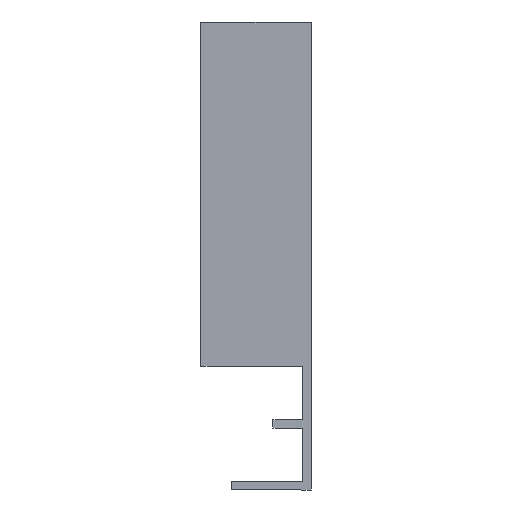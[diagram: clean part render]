
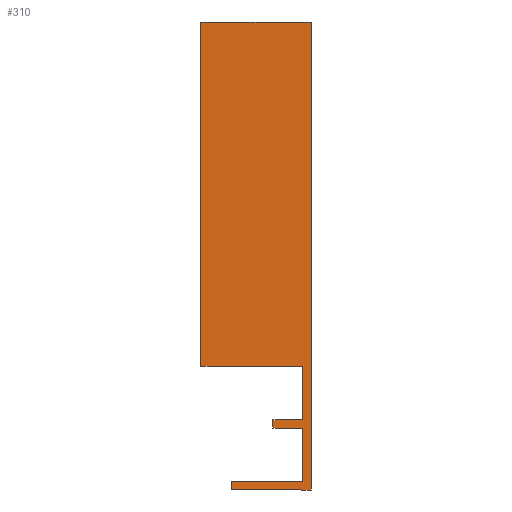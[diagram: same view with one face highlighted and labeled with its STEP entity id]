
A CAD part, left-side view. The second image highlights one B-rep face of the part: STEP entity #310.
In plain terms, the highlighted planar face has unit normal (-1, 0, 0).
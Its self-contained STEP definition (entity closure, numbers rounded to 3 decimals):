
#5 = VECTOR ( 'NONE', #530, 1000. ) ;
#6 = LINE ( 'NONE', #531, #5 ) ;
#7 = VECTOR ( 'NONE', #536, 1000. ) ;
#8 = LINE ( 'NONE', #535, #7 ) ;
#28 = VECTOR ( 'NONE', #510, 1000. ) ;
#31 = LINE ( 'NONE', #507, #28 ) ;
#39 = VECTOR ( 'NONE', #497, 1000. ) ;
#40 = LINE ( 'NONE', #496, #39 ) ;
#45 = VECTOR ( 'NONE', #491, 1000. ) ;
#49 = LINE ( 'NONE', #488, #45 ) ;
#52 = LINE ( 'NONE', #481, #53 ) ;
#53 = VECTOR ( 'NONE', #482, 1000. ) ;
#54 = LINE ( 'NONE', #483, #120 ) ;
#63 = ORIENTED_EDGE ( 'NONE', *, *, #237, .T. ) ;
#64 = ORIENTED_EDGE ( 'NONE', *, *, #243, .T. ) ;
#65 = ORIENTED_EDGE ( 'NONE', *, *, #232, .T. ) ;
#66 = ORIENTED_EDGE ( 'NONE', *, *, #251, .T. ) ;
#67 = ORIENTED_EDGE ( 'NONE', *, *, #301, .T. ) ;
#68 = ORIENTED_EDGE ( 'NONE', *, *, #284, .T. ) ;
#120 = VECTOR ( 'NONE', #485, 1000. ) ;
#127 = ORIENTED_EDGE ( 'NONE', *, *, #269, .T. ) ;
#128 = ORIENTED_EDGE ( 'NONE', *, *, #287, .T. ) ;
#129 = ORIENTED_EDGE ( 'NONE', *, *, #282, .T. ) ;
#140 = EDGE_LOOP ( 'NONE', ( #157, #156, #155, #127, #128, #129, #63, #64, #65, #66, #67, #68 ) ) ;
#155 = ORIENTED_EDGE ( 'NONE', *, *, #283, .T. ) ;
#156 = ORIENTED_EDGE ( 'NONE', *, *, #231, .T. ) ;
#157 = ORIENTED_EDGE ( 'NONE', *, *, #271, .T. ) ;
#165 = LINE ( 'NONE', #539, #166 ) ;
#166 = VECTOR ( 'NONE', #540, 1000. ) ;
#167 = LINE ( 'NONE', #331, #168 ) ;
#168 = VECTOR ( 'NONE', #333, 1000. ) ;
#169 = LINE ( 'NONE', #335, #170 ) ;
#170 = VECTOR ( 'NONE', #337, 1000. ) ;
#171 = LINE ( 'NONE', #338, #172 ) ;
#172 = VECTOR ( 'NONE', #334, 1000. ) ;
#185 = LINE ( 'NONE', #349, #186 ) ;
#186 = VECTOR ( 'NONE', #350, 1000. ) ;
#194 = FACE_OUTER_BOUND ( 'NONE', #140, .T. ) ;
#217 = VERTEX_POINT ( 'NONE', #474 ) ;
#220 = CARTESIAN_POINT ( 'NONE',  ( -260.5, 10.4, 49.7 ) ) ;
#221 = VERTEX_POINT ( 'NONE', #220 ) ;
#222 = VERTEX_POINT ( 'NONE', #477 ) ;
#226 = VERTEX_POINT ( 'NONE', #475 ) ;
#229 = VERTEX_POINT ( 'NONE', #479 ) ;
#231 = EDGE_CURVE ( 'NONE', #459, #226, #52, .T. ) ;
#232 = EDGE_CURVE ( 'NONE', #467, #469, #54, .T. ) ;
#237 = EDGE_CURVE ( 'NONE', #222, #465, #49, .T. ) ;
#243 = EDGE_CURVE ( 'NONE', #465, #467, #40, .T. ) ;
#251 = EDGE_CURVE ( 'NONE', #469, #470, #31, .T. ) ;
#252 = AXIS2_PLACEMENT_3D ( 'NONE', #375, #381, #382 ) ;
#269 = EDGE_CURVE ( 'NONE', #461, #229, #8, .T. ) ;
#271 = EDGE_CURVE ( 'NONE', #472, #459, #6, .T. ) ;
#282 = EDGE_CURVE ( 'NONE', #221, #222, #165, .T. ) ;
#283 = EDGE_CURVE ( 'NONE', #226, #461, #167, .T. ) ;
#284 = EDGE_CURVE ( 'NONE', #217, #472, #169, .T. ) ;
#287 = EDGE_CURVE ( 'NONE', #229, #221, #171, .T. ) ;
#301 = EDGE_CURVE ( 'NONE', #470, #217, #185, .T. ) ;
#310 = ADVANCED_FACE ( 'NONE', ( #194 ), #372, .T. ) ;
#331 = CARTESIAN_POINT ( 'NONE',  ( -260.5, 6., -17.9 ) ) ;
#333 = DIRECTION ( 'NONE',  ( 0., -1., 0. ) ) ;
#334 = DIRECTION ( 'NONE',  ( 0., 1., 0. ) ) ;
#335 = CARTESIAN_POINT ( 'NONE',  ( -260.5, -4.3, -8.95 ) ) ;
#337 = DIRECTION ( 'NONE',  ( 0., 0., -1. ) ) ;
#338 = CARTESIAN_POINT ( 'NONE',  ( -260.5, -5.5, 49.7 ) ) ;
#349 = CARTESIAN_POINT ( 'NONE',  ( -260.5, 0., -8.95 ) ) ;
#350 = DIRECTION ( 'NONE',  ( 0., -1., 0. ) ) ;
#372 = PLANE ( 'NONE',  #252 ) ;
#375 = CARTESIAN_POINT ( 'NONE',  ( -260.5, 6., -16.7 ) ) ;
#381 = DIRECTION ( 'NONE',  ( -1., 0., 0. ) ) ;
#382 = DIRECTION ( 'NONE',  ( 0., -1., 0. ) ) ;
#417 = CARTESIAN_POINT ( 'NONE',  ( -260.5, -5.5, -17.9 ) ) ;
#426 = CARTESIAN_POINT ( 'NONE',  ( -260.5, 6., -16.7 ) ) ;
#430 = CARTESIAN_POINT ( 'NONE',  ( -260.5, -4.3, 0. ) ) ;
#432 = CARTESIAN_POINT ( 'NONE',  ( -260.5, -4.3, -7.75 ) ) ;
#434 = CARTESIAN_POINT ( 'NONE',  ( -260.5, 0., -7.75 ) ) ;
#435 = CARTESIAN_POINT ( 'NONE',  ( -260.5, 0., -8.95 ) ) ;
#436 = CARTESIAN_POINT ( 'NONE',  ( -260.5, -4.3, -16.7 ) ) ;
#459 = VERTEX_POINT ( 'NONE', #426 ) ;
#461 = VERTEX_POINT ( 'NONE', #417 ) ;
#465 = VERTEX_POINT ( 'NONE', #430 ) ;
#467 = VERTEX_POINT ( 'NONE', #432 ) ;
#469 = VERTEX_POINT ( 'NONE', #434 ) ;
#470 = VERTEX_POINT ( 'NONE', #435 ) ;
#472 = VERTEX_POINT ( 'NONE', #436 ) ;
#474 = CARTESIAN_POINT ( 'NONE',  ( -260.5, -4.3, -8.95 ) ) ;
#475 = CARTESIAN_POINT ( 'NONE',  ( -260.5, 6., -17.9 ) ) ;
#477 = CARTESIAN_POINT ( 'NONE',  ( -260.5, 10.4, 0. ) ) ;
#479 = CARTESIAN_POINT ( 'NONE',  ( -260.5, -5.5, 49.7 ) ) ;
#481 = CARTESIAN_POINT ( 'NONE',  ( -260.5, 6., -16.7 ) ) ;
#482 = DIRECTION ( 'NONE',  ( 0., 0., -1. ) ) ;
#483 = CARTESIAN_POINT ( 'NONE',  ( -260.5, -4.3, -7.75 ) ) ;
#485 = DIRECTION ( 'NONE',  ( 0., 1., 0. ) ) ;
#488 = CARTESIAN_POINT ( 'NONE',  ( -260.5, 10.4, 0. ) ) ;
#491 = DIRECTION ( 'NONE',  ( 0., -1., 0. ) ) ;
#496 = CARTESIAN_POINT ( 'NONE',  ( -260.5, -4.3, 0. ) ) ;
#497 = DIRECTION ( 'NONE',  ( 0., 0., -1. ) ) ;
#507 = CARTESIAN_POINT ( 'NONE',  ( -260.5, 0., -7.75 ) ) ;
#510 = DIRECTION ( 'NONE',  ( 0., 0., -1. ) ) ;
#530 = DIRECTION ( 'NONE',  ( 0., 1., 0. ) ) ;
#531 = CARTESIAN_POINT ( 'NONE',  ( -260.5, -4.3, -16.7 ) ) ;
#535 = CARTESIAN_POINT ( 'NONE',  ( -260.5, -5.5, -17.9 ) ) ;
#536 = DIRECTION ( 'NONE',  ( 0., 0., 1. ) ) ;
#539 = CARTESIAN_POINT ( 'NONE',  ( -260.5, 10.4, 49.7 ) ) ;
#540 = DIRECTION ( 'NONE',  ( 0., 0., -1. ) ) ;
